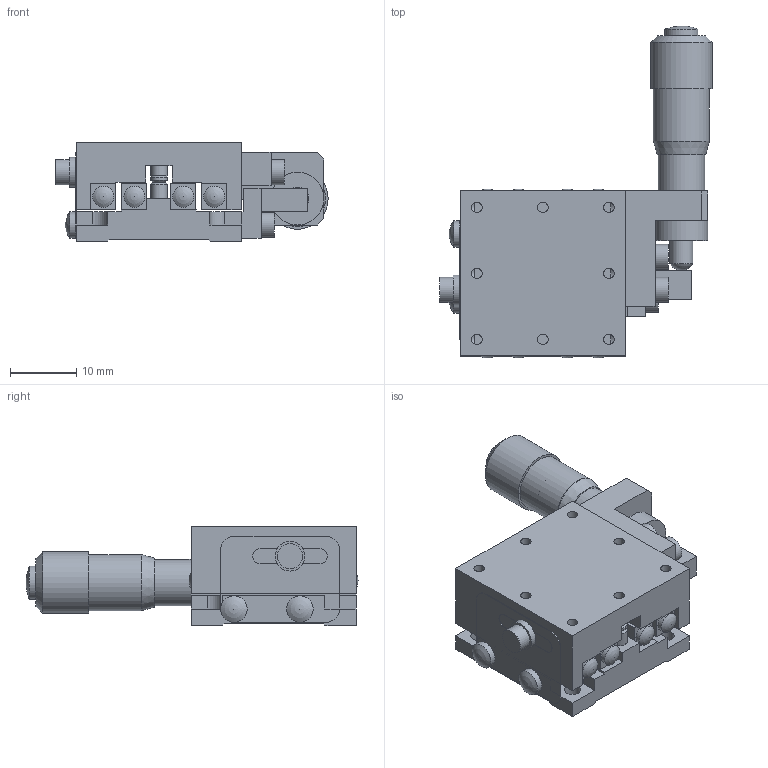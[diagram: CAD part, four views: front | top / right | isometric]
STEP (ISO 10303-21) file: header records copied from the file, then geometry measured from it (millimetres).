
FILE_DESCRIPTION( ( 'STEP AP203' ), '1' );
FILE_NAME( 'C:/3D-Trans/3D_B11-25CNZ+090218.step', '2009-02-18T00:21:56', ( ' ' ), ( ' ' ), 'XStep 1.0', ' ', ' ' );
FILE_SCHEMA( ( 'CONFIG_CONTROL_DESIGN' ) );
Length unit declared in the file: millimetre
Products named in the file (3): 1; 2; 3
Bounding box: 41.25 x 50.3 x 15 mm (x, y, z)
Volume: 10643.9 mm3; surface area: 7738.6 mm2
Topology: 3 solids, 3 shells, 219 faces, 580 edges, 385 vertices
Faces by surface type: plane 134, cylinder 58, cone 15, sphere 12
Full cylindrical faces by diameter (mm): 1.6 x14, 2 x1, 2.5 x8, 3.2 x8, 3.5 x2, 3.8 x5, 4 x2, 4.5 x2, 5 x1, 5.5 x1, 7 x1, 8 x1, 8.1 x1, 8.5 x1, 9.3 x1
Entity records: 6131 total; most frequent: CARTESIAN_POINT 1073, DIRECTION 1017, ORIENTED_EDGE 908, EDGE_CURVE 454, AXIS2_PLACEMENT_3D 347, VERTEX_POINT 331, EDGE_LOOP 323, LINE 323
